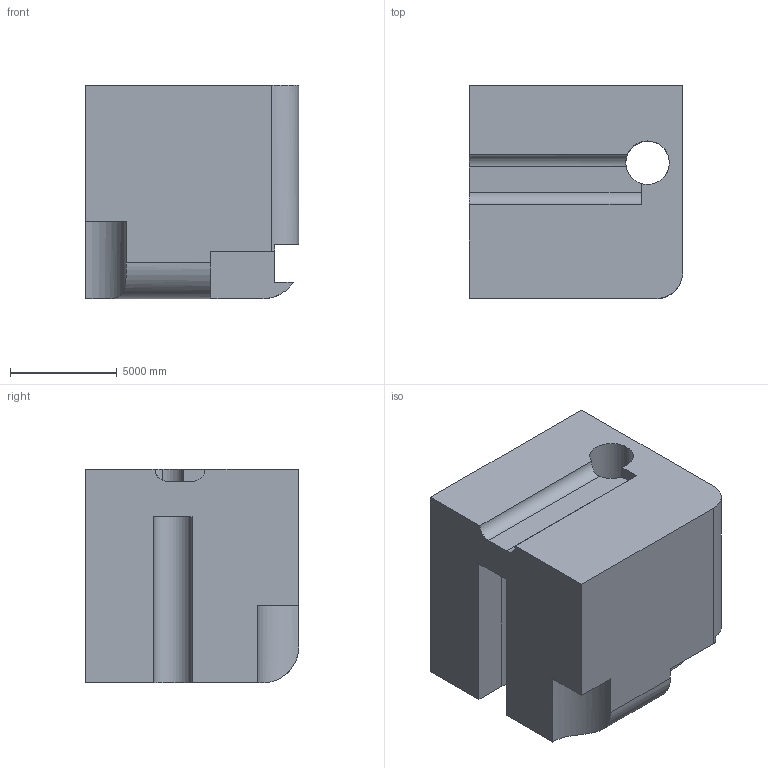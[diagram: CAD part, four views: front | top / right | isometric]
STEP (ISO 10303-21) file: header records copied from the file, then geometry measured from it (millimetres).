
FILE_DESCRIPTION (( 'STEP AP203' ), '1' );
FILE_NAME ('1906.STEP', '2022-08-25T16:44:02', ( 'user' ), ( '' ), 'SwSTEP 2.0', 'SolidWorks 2021', '' );
FILE_SCHEMA (( 'CONFIG_CONTROL_DESIGN' ));
Length unit declared in the file: centimetre
Products named in the file (1): 1906
Bounding box: 10000 x 10000 x 10000 mm (x, y, z)
Volume: 858849348188.3 mm3; surface area: 673071687.3 mm2
Topology: 1 solids, 1 shells, 40 faces, 120 edges, 80 vertices
Faces by surface type: plane 27, cylinder 13
Entity records: 1661 total; most frequent: CARTESIAN_POINT 476, ORIENTED_EDGE 240, DIRECTION 228, EDGE_CURVE 120, LINE 84, VECTOR 84, VERTEX_POINT 80, AXIS2_PLACEMENT_3D 72
